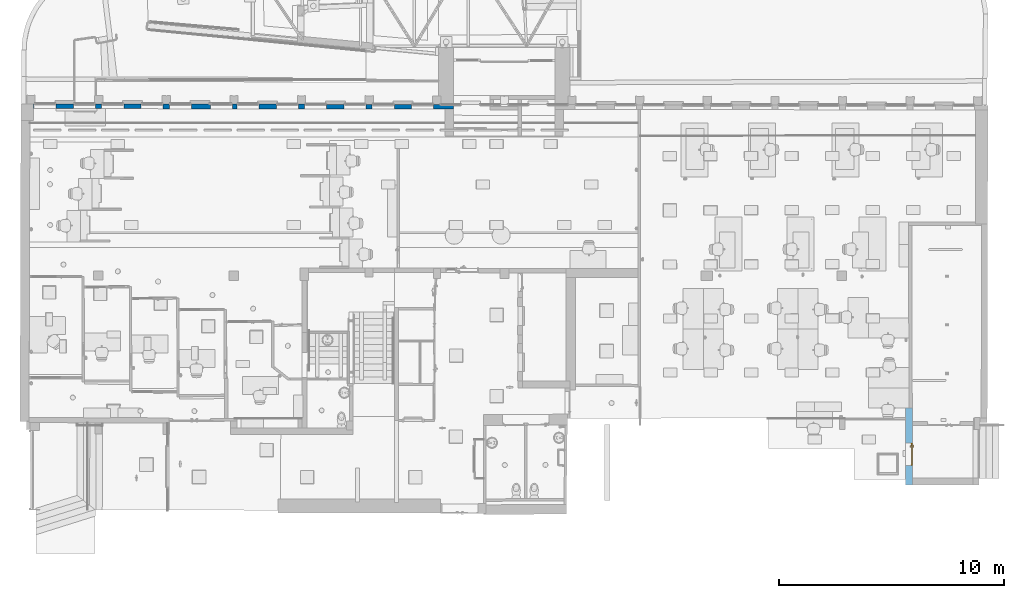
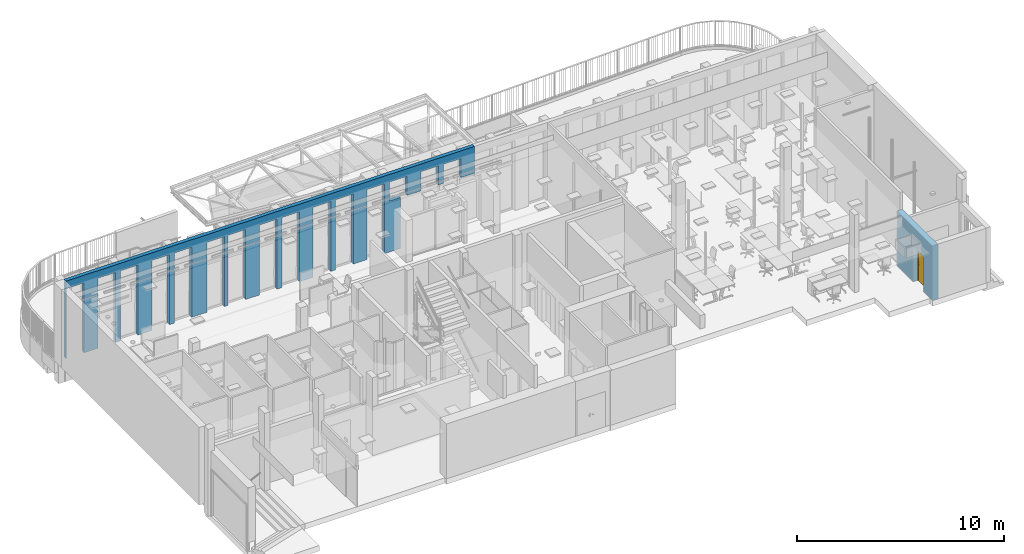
# One storey, part 48 of 128: 1 door, 1 wall, 1 opening, plus 1 element that does not belong to this part.
"""IFC2X3 building model written with IfcOpenShell, lengths in metres."""

from ifc_helpers import new_model, entity, si_unit, converted_unit, derived_unit, direction, frame, frame_2d, origin, place, context, subcontext, project, spatial, rectangle, extrude, faceted_brep, source, transform, mapped, material, layer, layer_set, layer_usage, type_object, type_shapes, element, fill, save


model = new_model("IFC2X3")

# Units and contexts
model_context = context("Model", 3, precision=1e-05, world=origin(), true_north=direction((6.123031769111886e-17, 1.0)))
body_context = subcontext(model_context, "Body", "Model", "MODEL_VIEW")
ifc_project = project(units=[si_unit("LENGTHUNIT", "METRE"), si_unit("AREAUNIT", "SQUARE_METRE"), converted_unit("PLANEANGLEUNIT", "DEGREE", entity("IfcPlaneAngleMeasure", 0.017453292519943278), si_unit("PLANEANGLEUNIT", "RADIAN"), dimensions=[0, 0, 0, 0, 0, 0, 0]), derived_unit("THERMALTRANSMITTANCEUNIT", [(si_unit("MASSUNIT", "GRAM", prefix="KILO"), 1), (si_unit("THERMODYNAMICTEMPERATUREUNIT", "KELVIN"), -1), (si_unit("TIMEUNIT", "SECOND"), -3)])], contexts=[model_context])

# Site, building, storey
site_placement = place(None, origin())
site = spatial("IfcSite", under=ifc_project, at=site_placement, Name="Default", CompositionType="ELEMENT")
building_placement = place(site_placement, origin())
building = spatial("IfcBuilding", under=site, at=building_placement, CompositionType="ELEMENT")
storey_placement = place(building_placement, origin())
storey = spatial("IfcBuildingStorey", under=building, at=storey_placement, Name="00_RDC CAF", CompositionType="ELEMENT", Elevation=2.4982504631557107e-13)

# Wall
ifc_material_1 = material(Name="STR - Beton Mur")
ifc_layer_1 = layer(ifc_material_1, 0.20999999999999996)
ifc_layer_set_1 = layer_set([ifc_layer_1], Name="Mur de base:M_Ext_Beton_210mm")
wall_type_1 = type_object("IfcWallType", Name="Mur de base:M_Ext_Beton_210mm", PredefinedType="STANDARD", material=ifc_layer_set_1)
wall_1_placement = place(storey_placement, frame((6.851141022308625, 144.0633989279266, 0.0), z_axis=(0.0, 0.0, 1.0), x_axis=(0.9999987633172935, -0.0015726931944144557, 0.0)))
element("IfcWall", 1, at=wall_1_placement, inside=storey, type_object=wall_type_1, Name="Mur de base:M_Ext_Beton_210mm", ObjectType="Mur de base:M_Ext_Beton_210mm", context=body_context, shape_type="Brep", body=[
    faceted_brep([(22.781044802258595, -0.10499999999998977, 4.5779999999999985), (0.0, -0.10499999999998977, 4.5779999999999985), (0.0, -0.10499999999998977, 0.0), (0.03471705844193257, -0.10499999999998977, 0.0), (0.034717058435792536, -0.10499999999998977, 4.127999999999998), (1.0147170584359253, -0.10500000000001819, 4.127999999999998), (1.0147170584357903, -0.10500000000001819, 0.0), (1.7810911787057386, -0.10499999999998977, 0.0), (1.7810911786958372, -0.10500000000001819, 4.127999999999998), (2.7610911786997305, -0.10500000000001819, 4.127999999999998), (2.7610911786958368, -0.10499999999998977, 0.0), (3.034673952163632, -0.10499999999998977, 0.0), (3.034673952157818, -0.10499999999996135, 4.127999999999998), (4.014673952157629, -0.10499999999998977, 4.127999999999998), (4.014673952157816, -0.10499999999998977, 0.0), (4.781048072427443, -0.10499999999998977, 0.0), (4.781048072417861, -0.10499999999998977, 4.127999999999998), (5.76104807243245, -0.10499999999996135, 4.127999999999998), (5.761048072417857, -0.10499999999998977, 0.0), (6.034711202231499, -0.10499999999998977, 0.0), (6.034711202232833, -0.10499999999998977, 4.127999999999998), (7.014711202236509, -0.10499999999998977, 4.127999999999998), (7.014711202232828, -0.10499999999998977, 0.0), (7.856383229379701, -0.10500000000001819, 0.0), (7.856383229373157, -0.10500000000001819, 4.127999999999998), (8.836383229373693, -0.10499999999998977, 4.127999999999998), (8.836383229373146, -0.10499999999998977, 0.0), (9.034708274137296, -0.10500000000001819, 0.0), (9.03470827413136, -0.10499999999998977, 4.127999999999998), (10.014708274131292, -0.10500000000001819, 4.127999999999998), (10.014708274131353, -0.10500000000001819, 0.0), (10.781082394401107, -0.10499999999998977, 0.0), (10.781082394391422, -0.10499999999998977, 4.127999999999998), (11.761082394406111, -0.10499999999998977, 4.127999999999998), (11.761082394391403, -0.10500000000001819, 0.0), (12.03470534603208, -0.10499999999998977, 0.0), (12.034705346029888, -0.10499999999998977, 4.127999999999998), (13.014705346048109, -0.10499999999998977, 4.127999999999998), (13.01470534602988, -0.10499999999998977, 0.0), (13.781079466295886, -0.10499999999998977, 0.0), (13.781079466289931, -0.10499999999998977, 4.127999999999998), (14.761079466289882, -0.10499999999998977, 4.127999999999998), (14.761079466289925, -0.10499999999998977, 0.0), (15.034702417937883, -0.10500000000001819, 0.0), (15.034702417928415, -0.10499999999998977, 4.127999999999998), (16.014702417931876, -0.10500000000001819, 4.127999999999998), (16.0147024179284, -0.10500000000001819, 0.0), (16.781076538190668, -0.10499999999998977, 0.0), (16.78107653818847, -0.10499999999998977, 4.127999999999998), (17.76107653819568, -0.10500000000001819, 4.127999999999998), (17.76107653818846, -0.10499999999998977, 0.0), (18.643919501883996, -0.10499999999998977, 0.0), (18.643919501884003, -0.10499999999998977, 3.0), (18.034714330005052, -0.10499999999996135, 3.0), (18.034714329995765, -0.10499999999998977, 4.127999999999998), (19.014714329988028, -0.10499999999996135, 4.127999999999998), (19.01471432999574, -0.10499999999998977, 3.0), (19.781088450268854, -0.10499999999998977, 3.0), (19.78108845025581, -0.10500000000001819, 4.127999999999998), (20.761088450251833, -0.10499999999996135, 4.127999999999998), (20.761088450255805, -0.10499999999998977, 3.0), (21.03470398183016, -0.10500000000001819, 3.0), (21.034703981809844, -0.10499999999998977, 4.127999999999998), (22.014703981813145, -0.10499999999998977, 4.127999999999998), (22.014703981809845, -0.10499999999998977, 3.0), (22.781044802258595, -0.10499999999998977, 3.0), (22.781044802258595, -0.10499999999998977, 4.127999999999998), (0.00027843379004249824, 0.10500000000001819, 4.5779999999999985), (0.03471705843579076, 0.10500000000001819, 4.5779999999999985), (1.0146911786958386, 0.10499999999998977, 4.5779999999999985), (1.7810911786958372, 0.10499999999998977, 4.5779999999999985), (2.761314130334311, 0.10500000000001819, 4.5779999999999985), (3.0347141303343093, 0.10500000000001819, 4.5779999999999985), (4.014648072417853, 0.10499999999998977, 4.5779999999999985), (4.781048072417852, 0.10499999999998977, 4.5779999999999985), (5.76131120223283, 0.10499999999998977, 4.5779999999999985), (6.034711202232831, 0.10500000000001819, 4.5779999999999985), (7.014685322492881, 0.10500000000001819, 4.5779999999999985), (7.78108532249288, 0.10500000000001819, 4.5779999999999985), (8.761308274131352, 0.10500000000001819, 4.5779999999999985), (9.034708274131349, 0.10500000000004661, 4.5779999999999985), (10.0146823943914, 0.10500000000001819, 4.5779999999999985), (10.781082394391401, 0.10500000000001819, 4.5779999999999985), (11.76130534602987, 0.10500000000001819, 4.5779999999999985), (12.03470534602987, 0.10500000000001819, 4.5779999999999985), (13.014679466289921, 0.10499999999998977, 4.5779999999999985), (13.781079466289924, 0.10500000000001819, 4.5779999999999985), (14.761302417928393, 0.10500000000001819, 4.5779999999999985), (15.034702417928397, 0.10500000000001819, 4.5779999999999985), (16.01467653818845, 0.10500000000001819, 4.5779999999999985), (16.781076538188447, 0.10499999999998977, 4.5779999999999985), (17.761299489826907, 0.10500000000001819, 4.5779999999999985), (18.034699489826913, 0.10499999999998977, 4.5779999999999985), (19.01467361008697, 0.10500000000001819, 4.5779999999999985), (19.78107361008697, 0.10500000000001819, 4.5779999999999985), (20.761296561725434, 0.10500000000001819, 4.5779999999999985), (21.03469656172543, 0.10499999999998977, 4.5779999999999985), (22.014670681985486, 0.10500000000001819, 4.5779999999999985), (22.78104480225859, 0.10499999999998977, 4.5779999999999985), (22.78104480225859, 0.10499999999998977, 4.127999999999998), (22.78104480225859, 0.10499999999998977, 3.0), (22.014703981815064, 0.10500000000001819, 3.0), (22.014703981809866, 0.10499999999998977, 4.127999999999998), (21.03470398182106, 0.10500000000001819, 4.127999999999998), (21.034703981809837, 0.10500000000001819, 3.0), (20.76129656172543, 0.10500000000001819, 3.0), (20.761088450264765, 0.10500000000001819, 3.0), (20.761088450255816, 0.10499999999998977, 4.127999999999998), (19.781088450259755, 0.10500000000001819, 4.127999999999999), (19.781088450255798, 0.10500000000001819, 3.0), (19.014714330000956, 0.10500000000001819, 3.0), (19.014714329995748, 0.10500000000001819, 4.127999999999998), (18.03471432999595, 0.10500000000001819, 4.127999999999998), (18.03471432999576, 0.10500000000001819, 3.0), (18.643589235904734, 0.10500000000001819, 3.0), (18.643589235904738, 0.10500000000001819, 0.0), (18.034699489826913, 0.10499999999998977, 0.0), (17.761299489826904, 0.10500000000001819, 0.0), (17.7610765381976, 0.10500000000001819, 0.0), (17.76107653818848, 0.10500000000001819, 4.127999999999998), (16.78107653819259, 0.10500000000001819, 4.127999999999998), (16.781076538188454, 0.10499999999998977, 0.0), (16.014702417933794, 0.10500000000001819, 0.0), (16.01470241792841, 0.10499999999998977, 4.127999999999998), (15.034702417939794, 0.10499999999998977, 4.127999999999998), (15.0347024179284, 0.10500000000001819, 0.0), (14.761302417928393, 0.10500000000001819, 0.0), (14.761079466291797, 0.10500000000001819, 0.0), (14.761079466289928, 0.10499999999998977, 4.127999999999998), (13.781079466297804, 0.10500000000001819, 4.127999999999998), (13.78107946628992, 0.10500000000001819, 0.0), (13.01470534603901, 0.10500000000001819, 0.0), (13.01470534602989, 0.10500000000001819, 4.127999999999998), (12.034705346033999, 0.10500000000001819, 4.127999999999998), (12.034705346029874, 0.10500000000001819, 0.0), (11.761305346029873, 0.10500000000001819, 0.0), (11.761082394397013, 0.10500000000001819, 0.0), (11.76108239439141, 0.10500000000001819, 4.127999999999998), (10.781082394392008, 0.10500000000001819, 4.127999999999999), (10.781082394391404, 0.10500000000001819, 0.0), (10.014708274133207, 0.10500000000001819, 0.0), (10.01470827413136, 0.10500000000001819, 4.127999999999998), (9.034708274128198, 0.10500000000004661, 4.127999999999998), (9.034708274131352, 0.10500000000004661, 0.0), (8.836383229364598, 0.10500000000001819, 0.0), (8.836383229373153, 0.10500000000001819, 4.127999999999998), (7.85638322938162, 0.10500000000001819, 4.127999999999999), (7.85638322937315, 0.10500000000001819, 0.0), (7.78108532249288, 0.10500000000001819, 0.0), (7.014711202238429, 0.10499999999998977, 0.0), (7.014711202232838, 0.10500000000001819, 4.127999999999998), (6.034711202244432, 0.10499999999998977, 4.127999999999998), (6.034711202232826, 0.10500000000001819, 0.0), (5.76131120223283, 0.10499999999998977, 0.0), (5.7610480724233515, 0.10500000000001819, 0.0), (5.761048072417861, 0.10499999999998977, 4.127999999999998), (4.78104807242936, 0.10500000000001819, 4.127999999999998), (4.781048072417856, 0.10499999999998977, 0.0), (4.014673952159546, 0.10500000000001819, 0.0), (4.014673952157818, 0.10499999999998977, 4.127999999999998), (3.034673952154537, 0.10500000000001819, 4.127999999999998), (3.0346739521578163, 0.10500000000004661, 0.0), (2.761314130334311, 0.10500000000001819, 0.0), (2.761091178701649, 0.10499999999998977, 0.0), (2.7610911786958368, 0.10500000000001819, 4.127999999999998), (1.781091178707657, 0.10500000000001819, 4.127999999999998), (1.7810911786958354, 0.10499999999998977, 0.0), (1.0147170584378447, 0.10500000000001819, 0.0), (1.014717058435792, 0.10500000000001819, 4.127999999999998), (0.03471705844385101, 0.10499999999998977, 4.127999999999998), (0.03471705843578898, 0.10500000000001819, 0.0), (0.00027843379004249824, 0.10500000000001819, 0.0)], [[[0, 1, 2, 3, 4, 5, 6, 7, 8, 9, 10, 11, 12, 13, 14, 15, 16, 17, 18, 19, 20, 21, 22, 23, 24, 25, 26, 27, 28, 29, 30, 31, 32, 33, 34, 35, 36, 37, 38, 39, 40, 41, 42, 43, 44, 45, 46, 47, 48, 49, 50, 51, 52, 53, 54, 55, 56, 57, 58, 59, 60, 61, 62, 63, 64, 65, 66]], [[67, 68, 69, 70, 71, 72, 73, 74, 75, 76, 77, 78, 79, 80, 81, 82, 83, 84, 85, 86, 87, 88, 89, 90, 91, 92, 93, 94, 95, 96, 97, 98, 99, 100, 101, 102, 103, 104, 105, 106, 107, 108, 109, 110, 111, 112, 113, 114, 115, 116, 117, 118, 119, 120, 121, 122, 123, 124, 125, 126, 127, 128, 129, 130, 131, 132, 133, 134, 135, 136, 137, 138, 139, 140, 141, 142, 143, 144, 145, 146, 147, 148, 149, 150, 151, 152, 153, 154, 155, 156, 157, 158, 159, 160, 161, 162, 163, 164, 165, 166, 167, 168, 169, 170, 171]], [[2, 1, 67, 171]], [[160, 12, 11, 161]], [[12, 160, 159, 13]], [[13, 159, 158, 14]], [[151, 20, 19, 152]], [[20, 151, 150, 21]], [[21, 150, 149, 22]], [[146, 24, 23, 147]], [[24, 146, 145, 25]], [[25, 145, 144, 26]], [[138, 32, 31, 139]], [[32, 138, 137, 33]], [[33, 137, 136, 34]], [[133, 36, 35, 134]], [[36, 133, 132, 37]], [[37, 132, 131, 38]], [[156, 16, 15, 157]], [[16, 156, 155, 17]], [[17, 155, 154, 18]], [[169, 4, 3, 170]], [[4, 169, 168, 5]], [[5, 168, 167, 6]], [[142, 28, 27, 143]], [[28, 142, 141, 29]], [[29, 141, 140, 30]], [[165, 8, 7, 166]], [[8, 165, 164, 9]], [[9, 164, 163, 10]], [[129, 40, 39, 130]], [[40, 129, 128, 41]], [[41, 128, 127, 42]], [[124, 44, 43, 125]], [[44, 124, 123, 45]], [[45, 123, 122, 46]], [[120, 48, 47, 121]], [[48, 120, 119, 49]], [[49, 119, 118, 50]], [[3, 2, 171, 170]], [[1, 0, 98, 97, 96, 95, 94, 93, 92, 91, 90, 89, 88, 87, 86, 85, 84, 83, 82, 81, 80, 79, 78, 77, 76, 75, 74, 73, 72, 71, 70, 69, 68, 67]], [[56, 110, 109, 57]], [[0, 66, 65, 100, 99, 98]], [[52, 51, 115, 114]], [[103, 62, 61, 104]], [[62, 103, 102, 63]], [[63, 102, 101, 64]], [[108, 58, 57, 109]], [[58, 108, 107, 59]], [[59, 107, 106, 60]], [[53, 113, 112, 54]], [[54, 112, 111, 55]], [[55, 111, 110, 56]], [[113, 53, 52, 114]], [[60, 106, 105, 104, 61]], [[100, 65, 64, 101]], [[7, 6, 167, 166]], [[11, 10, 163, 162, 161]], [[15, 14, 158, 157]], [[19, 18, 154, 153, 152]], [[23, 22, 149, 148, 147]], [[27, 26, 144, 143]], [[31, 30, 140, 139]], [[35, 34, 136, 135, 134]], [[39, 38, 131, 130]], [[43, 42, 127, 126, 125]], [[47, 46, 122, 121]], [[51, 50, 118, 117, 116, 115]]]),
])

# Wall, opening, door
ifc_layer_2 = layer(ifc_material_1, 0.29999999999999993)
ifc_layer_set_2 = layer_set([ifc_layer_2], Name="Mur de base:M_Int_Beton_300mm")
ifc_layer_usage = layer_usage(ifc_layer_set_2, "AXIS2", "NEGATIVE", 0.14999999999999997)
wall_type_2 = type_object("IfcWallType", Name="Mur de base:M_Int_Beton_300mm", PredefinedType="STANDARD", material=ifc_layer_set_2)
wall_2_placement = place(storey_placement, frame((45.694054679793, 130.66658221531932, 0.0), z_axis=(0.0, 0.0, 1.0), x_axis=(0.0, -1.0, 0.0)))
wall_2 = element("IfcWallStandardCase", 2, at=wall_2_placement, inside=storey, type_object=wall_type_2, material=ifc_layer_usage, Name="Mur de base:M_Int_Beton_300mm", ObjectType="Mur de base:M_Int_Beton_300mm", context=body_context, shape_type="SweptSolid", body=[
    extrude(rectangle(XDim=3.39814285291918, YDim=0.30000000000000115, at=frame_2d((1.69907142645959, 2.0816681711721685e-16), x_axis=(-1.0, 0.0))), origin(), (0.0, 0.0, 1.0), 3.230000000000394),
])
opening_placement = place(wall_2_placement, frame((1.5443237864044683, -0.15000000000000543, 0.0)))
opening = element("IfcOpeningElement", 3, at=opening_placement, cuts=wall_2, Name="P_Tunnel_Simple:P_Int_Simple_Pleine_930x2040mm:1", ObjectType="Opening", context=body_context, shape_type="SweptSolid", body=[
    extrude(rectangle(XDim=2.0727526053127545, YDim=0.9955052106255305, at=frame_2d((1.0363763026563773, 0.4977526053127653), x_axis=(1.0, 0.0))), frame((0.0, 0.0, 0.0), z_axis=(0.0, 1.0, 0.0), x_axis=(0.0, 0.0, 1.0)), (0.0, 0.0, 1.0), 0.29999999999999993),
])
ifc_material_2 = material(Name="ARC - M.In - Blanc")
door_style = type_object("IfcDoorStyle", Name="P_Tunnel_Simple:P_Int_Simple_Pleine_930x2040mm", ConstructionType="NOTDEFINED", OperationType="NOTDEFINED", ParameterTakesPrecedence=False, Sizeable=False, material=ifc_material_2)
shared_shape = source(origin(), body_context, "Body", "Brep", [
    faceted_brep([(0.9007273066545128, 0.04500000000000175, 0.9922195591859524), (0.904777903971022, 0.04500000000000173, 0.9922195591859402), (0.9087526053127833, 0.0450000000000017, 0.9929999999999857), (0.9087526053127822, 0.0450000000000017, 1.0069999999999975), (0.9047779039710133, 0.04500000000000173, 1.0077804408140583), (0.9007273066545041, 0.04500000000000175, 1.0077804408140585), (0.8967526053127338, 0.04500000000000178, 1.0069999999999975), (0.896752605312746, 0.04500000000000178, 0.9930000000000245), (0.8967526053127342, 0.06748520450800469, 1.0069999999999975), (0.8967526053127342, 0.06748520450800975, 0.9930000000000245), (0.9007273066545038, 0.06913157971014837, 1.0077804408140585), (0.9047779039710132, 0.07080939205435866, 1.0077804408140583), (0.8885915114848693, 0.08699578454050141, 1.0077804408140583), (0.886913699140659, 0.08294518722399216, 1.0077804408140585), (0.9087526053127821, 0.072455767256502, 1.0069999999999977), (0.9087526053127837, 0.07245576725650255, 0.9929999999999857), (0.9047779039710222, 0.07080939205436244, 0.9922195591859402), (0.9007273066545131, 0.0691315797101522, 0.9922195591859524), (0.8869136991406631, 0.08294518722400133, 0.9922195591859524), (0.8885915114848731, 0.08699578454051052, 0.9922195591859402), (0.8852673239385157, 0.07897048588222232, 1.0069999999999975), (0.8852673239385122, 0.0789704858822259, 0.9930000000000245), (0.8902378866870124, 0.09097048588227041, 1.0069999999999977), (0.8902378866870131, 0.0909704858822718, 0.9929999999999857), (0.80270682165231, 0.08294518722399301, 1.0077804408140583), (0.80270682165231, 0.08699578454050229, 1.007780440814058), (0.8027068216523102, 0.0909704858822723, 1.006999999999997), (0.8027068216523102, 0.09097048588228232, 0.9929999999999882), (0.8027068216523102, 0.08699578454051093, 0.99221955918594), (0.8027068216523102, 0.08294518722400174, 0.9922195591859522), (0.80270682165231, 0.07897048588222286, 0.993000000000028), (0.80270682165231, 0.07897048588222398, 1.0069999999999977), (0.8439870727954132, 0.07897048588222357, 1.0069999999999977), (0.8439870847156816, 0.07897048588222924, 0.9930000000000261), (0.8448102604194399, 0.08497048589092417, 1.0078786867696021), (0.8503073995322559, 0.09097048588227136, 1.0069999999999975), (0.850307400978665, 0.09097048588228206, 0.9929999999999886), (0.844810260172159, 0.08497048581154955, 0.9921213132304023)], [[[0, 1, 2, 3, 4, 5, 6, 7]], [[8, 9, 7, 6]], [[5, 10, 8, 6]], [[5, 4, 11, 12, 13, 10]], [[3, 14, 11, 4]], [[14, 3, 2, 15]], [[2, 1, 16, 15]], [[1, 0, 17, 18, 19, 16]], [[0, 7, 9, 17]], [[20, 21, 9, 8]], [[8, 10, 13, 20]], [[14, 22, 12, 11]], [[23, 22, 14, 15]], [[15, 16, 19, 23]], [[17, 9, 21, 18]], [[24, 25, 26, 27, 28, 29, 30, 31]], [[21, 20, 32, 31, 30, 33]], [[34, 24, 32]], [[25, 34, 35]], [[13, 32, 20]], [[24, 31, 32]], [[25, 35, 26]], [[35, 12, 22]], [[34, 12, 35]], [[34, 13, 12]], [[34, 32, 13]], [[24, 34, 25]], [[22, 23, 36, 27, 26, 35]], [[37, 28, 36]], [[36, 28, 27]], [[36, 23, 19]], [[18, 33, 37]], [[33, 18, 21]], [[30, 29, 33]], [[37, 29, 28]], [[37, 33, 29]], [[37, 36, 19]], [[18, 37, 19]]]),
    faceted_brep([(0.9007273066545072, -0.00499999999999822, 1.0077804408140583), (0.9047779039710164, -0.004999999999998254, 1.0077804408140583), (0.9087526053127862, -0.004999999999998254, 1.0069999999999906), (0.908752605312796, -0.004999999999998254, 0.9929999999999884), (0.9047779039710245, -0.004999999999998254, 0.9922195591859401), (0.9007273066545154, -0.00499999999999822, 0.9922195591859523), (0.8967526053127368, -0.0049999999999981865, 0.9930000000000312), (0.8967526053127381, -0.0049999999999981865, 1.006999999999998), (0.9047779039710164, -0.031004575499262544, 1.0077804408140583), (0.908752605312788, -0.032650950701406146, 1.0069999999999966), (0.9007273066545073, -0.029326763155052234, 1.0077804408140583), (0.8870512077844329, -0.04300286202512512, 1.0077804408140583), (0.8887290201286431, -0.04705345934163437, 1.0077804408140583), (0.8967526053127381, -0.027680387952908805, 1.006999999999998), (0.8967526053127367, -0.027680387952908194, 0.9930000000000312), (0.9007273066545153, -0.029326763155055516, 0.9922195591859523), (0.9047779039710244, -0.031004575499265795, 0.9922195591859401), (0.8887290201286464, -0.047053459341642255, 0.9922195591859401), (0.8870512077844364, -0.043002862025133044, 0.9922195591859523), (0.9087526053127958, -0.03265095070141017, 0.9929999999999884), (0.8903753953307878, -0.051028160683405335, 1.0069999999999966), (0.8854048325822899, -0.039028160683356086, 1.006999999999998), (0.8854048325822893, -0.03902816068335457, 0.9930000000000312), (0.8903753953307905, -0.05102816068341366, 0.9929999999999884), (0.8027339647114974, -0.05102816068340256, 1.0069999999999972), (0.8027339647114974, -0.047053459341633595, 1.0077804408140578), (0.8027339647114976, -0.04300286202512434, 1.007780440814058), (0.8027339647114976, -0.03902816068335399, 1.0069999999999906), (0.8027339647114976, -0.039028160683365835, 0.9930000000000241), (0.8027339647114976, -0.04300286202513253, 0.992219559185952), (0.8027339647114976, -0.047053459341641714, 0.9922195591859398), (0.8027339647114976, -0.05102816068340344, 0.9929999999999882), (0.84489258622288, -0.04502816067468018, 1.007878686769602), (0.8504449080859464, -0.05102816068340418, 1.0069999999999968), (0.8440693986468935, -0.03902816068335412, 1.0069999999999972), (0.8440693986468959, -0.03902816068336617, 0.9930000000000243), (0.8448925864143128, -0.04502816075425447, 0.9921213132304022), (0.8504449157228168, -0.05102816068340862, 0.9929999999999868)], [[[0, 1, 2, 3, 4, 5, 6, 7]], [[2, 1, 8, 9]], [[1, 0, 10, 11, 12, 8]], [[0, 7, 13, 10]], [[14, 13, 7, 6]], [[5, 15, 14, 6]], [[5, 4, 16, 17, 18, 15]], [[3, 19, 16, 4]], [[9, 19, 3, 2]], [[9, 8, 12, 20]], [[10, 13, 21, 11]], [[22, 21, 13, 14]], [[14, 15, 18, 22]], [[16, 19, 23, 17]], [[20, 23, 19, 9]], [[24, 25, 26, 27, 28, 29, 30, 31]], [[32, 25, 33]], [[33, 25, 24]], [[33, 20, 12]], [[11, 34, 32]], [[34, 11, 21]], [[27, 26, 34]], [[32, 26, 25]], [[32, 34, 26]], [[32, 33, 12]], [[11, 32, 12]], [[21, 22, 35, 28, 27, 34]], [[36, 29, 35]], [[30, 36, 37]], [[18, 35, 22]], [[29, 28, 35]], [[30, 37, 31]], [[37, 17, 23]], [[36, 17, 37]], [[36, 18, 17]], [[36, 35, 18]], [[29, 36, 30]], [[23, 20, 33, 24, 31, 37]]]),
    faceted_brep([(0.9227526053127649, 0.040000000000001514, 0.870000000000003), (0.9227526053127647, 0.040000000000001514, 1.0800000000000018), (0.9131053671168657, 0.04000000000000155, 1.0839960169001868), (0.9027526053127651, 0.04000000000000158, 1.0853589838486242), (0.8923998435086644, 0.04000000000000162, 1.083996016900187), (0.8827526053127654, 0.04000000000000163, 1.0800000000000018), (0.882752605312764, 0.04000000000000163, 0.8700000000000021), (0.892399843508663, 0.04000000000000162, 0.866003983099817), (0.9027526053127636, 0.04000000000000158, 0.8646410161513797), (0.9131053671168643, 0.04000000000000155, 0.8660039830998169), (0.9027526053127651, 0.045000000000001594, 1.0853589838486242), (0.9131053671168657, 0.045000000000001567, 1.0839960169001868), (0.9227526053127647, 0.04500000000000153, 1.0800000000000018), (0.9227526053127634, 0.04500000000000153, 0.8700000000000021), (0.9131053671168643, 0.045000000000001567, 0.8660039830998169), (0.9027526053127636, 0.045000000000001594, 0.8646410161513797), (0.892399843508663, 0.04500000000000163, 0.866003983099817), (0.882752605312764, 0.04500000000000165, 0.8700000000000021), (0.8827526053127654, 0.04500000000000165, 1.0800000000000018), (0.8923998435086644, 0.04500000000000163, 1.083996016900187)], [[[0, 1, 2, 3, 4, 5, 6, 7, 8, 9]], [[10, 11, 12, 13, 14, 15, 16, 17, 18, 19]], [[4, 19, 18, 5]], [[3, 10, 19, 4]], [[2, 11, 10, 3]], [[2, 1, 12, 11]], [[13, 12, 1, 0]], [[9, 14, 13, 0]], [[8, 15, 14, 9]], [[7, 16, 15, 8]], [[7, 6, 17, 16]], [[17, 6, 5, 18]]]),
    faceted_brep([(0.9227526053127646, -0.004999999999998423, 0.8700000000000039), (0.9227526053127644, -0.004999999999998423, 1.0800000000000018), (0.9131053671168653, -0.004999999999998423, 1.083996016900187), (0.9027526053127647, -0.004999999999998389, 1.0853589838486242), (0.8923998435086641, -0.004999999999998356, 1.0839960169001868), (0.8827526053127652, -0.004999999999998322, 1.0800000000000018), (0.8827526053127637, -0.004999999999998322, 0.8700000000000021), (0.8923998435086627, -0.004999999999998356, 0.866003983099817), (0.9027526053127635, -0.004999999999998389, 0.8646410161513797), (0.9131053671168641, -0.004999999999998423, 0.866003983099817), (0.9227526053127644, 0.0, 1.0800000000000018), (0.9227526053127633, 0.0, 0.8700000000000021), (0.9131053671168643, 0.0, 0.866003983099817), (0.9027526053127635, 0.0, 0.8646410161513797), (0.8923998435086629, 0.0, 0.866003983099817), (0.8827526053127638, 0.0, 0.8700000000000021), (0.882752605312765, 0.0, 1.0800000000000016), (0.8923998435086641, 0.0, 1.0839960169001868), (0.9027526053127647, 0.0, 1.0853589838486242), (0.9131053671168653, 0.0, 1.083996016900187)], [[[0, 1, 2, 3, 4, 5, 6, 7, 8, 9]], [[10, 11, 12, 13, 14, 15, 16, 17, 18, 19]], [[9, 12, 11, 0]], [[8, 13, 12, 9]], [[7, 14, 13, 8]], [[7, 6, 15, 14]], [[15, 6, 5, 16]], [[4, 17, 16, 5]], [[3, 18, 17, 4]], [[2, 19, 18, 3]], [[2, 1, 10, 19]], [[11, 10, 1, 0]]]),
    faceted_brep([(0.9627526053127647, 0.04000000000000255, 2.04), (0.9627526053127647, 0.04000000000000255, 0.0), (0.03275260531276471, 0.04000000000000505, 0.0), (0.03275260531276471, 0.04000000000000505, 2.04), (0.032752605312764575, 0.0, 0.0), (0.032752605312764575, 0.0, 2.04), (0.9627526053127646, 0.0, 0.0), (0.9627526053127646, 0.0, 2.04)], [[[0, 1, 2, 3]], [[2, 4, 5, 3]], [[1, 6, 4, 2]], [[0, 7, 6, 1]], [[7, 5, 4, 6]], [[3, 5, 7, 0]]]),
    faceted_brep([(0.0, 0.05000000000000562, 0.0), (0.0477526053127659, 0.05000000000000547, 0.0), (0.04775260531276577, 0.040000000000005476, 0.0), (0.03275260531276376, 0.040000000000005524, 0.0), (0.032752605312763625, 0.0, 0.0), (0.0, 0.0, 0.0), (0.0, 0.05000000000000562, 2.0727526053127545), (0.9955052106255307, 0.05000000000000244, 2.0727526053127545), (0.9955052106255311, 0.050000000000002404, 0.0), (0.9477526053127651, 0.05000000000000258, 0.0), (0.9477526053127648, 0.050000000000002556, 2.024999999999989), (0.0477526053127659, 0.05000000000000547, 2.024999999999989), (0.04775260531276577, 0.040000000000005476, 2.024999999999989), (0.9477526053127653, 0.04000000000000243, 2.0249999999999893), (0.9477526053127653, 0.04000000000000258, 0.0), (0.9627526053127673, 0.040000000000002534, 0.0), (0.9627526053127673, 0.04000000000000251, 2.039999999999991), (0.03275260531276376, 0.040000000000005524, 2.0399999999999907), (0.032752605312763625, 0.0, 2.0399999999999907), (0.9627526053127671, 0.0, 2.039999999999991), (0.9627526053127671, 0.0, 0.0), (0.9955052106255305, 0.0, 0.0), (0.9955052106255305, 0.0, 2.0727526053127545), (0.0, 0.0, 2.0727526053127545)], [[[0, 1, 2, 3, 4, 5]], [[1, 0, 6, 7, 8, 9, 10, 11]], [[2, 1, 11, 12]], [[3, 2, 12, 13, 14, 15, 16, 17]], [[4, 3, 17, 18]], [[5, 4, 18, 19, 20, 21, 22, 23]], [[0, 5, 23, 6]], [[7, 22, 21, 8]], [[8, 21, 20, 15, 14, 9]], [[13, 10, 9, 14]], [[19, 16, 15, 20]], [[12, 11, 10, 13]], [[18, 17, 16, 19]], [[6, 23, 22, 7]]]),
])
type_shapes(door_style, [shared_shape])
door_placement = place(opening_placement, frame((0.995505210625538, 0.29999999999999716, 0.0), z_axis=(0.0, 0.0, 1.0), x_axis=(-1.0, 0.0, 0.0)))
door = element("IfcDoor", 4, at=door_placement, inside=storey, type_object=door_style, material=ifc_material_2, Name="P_Tunnel_Simple:P_Int_Simple_Pleine_930x2040mm", ObjectType="P_Tunnel_Simple:P_Int_Simple_Pleine_930x2040mm", OverallHeight=2.0727526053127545, OverallWidth=0.9955052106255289, context=body_context, shape_type="MappedRepresentation", body=[
    mapped(shared_shape, transform((0.0, 0.0, 0.0), scale=1.0)),
])
fill(opening, door)

save(model, "model.ifc")
